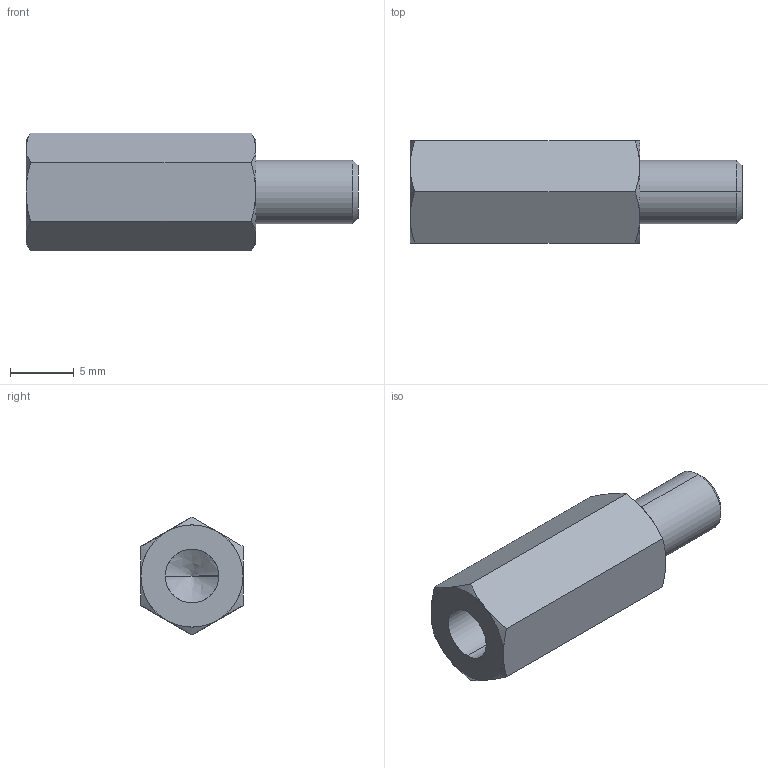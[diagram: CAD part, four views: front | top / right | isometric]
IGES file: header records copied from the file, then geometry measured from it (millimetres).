
Start section: SolidWorks IGES file using analytic representation for surfaces
Global section: file name: C:\Users\render1\Desktop\P0185_IGES\P0185.05-18.igs; native system: SolidWorks 2009; preprocessor: SolidWorks 2009; author: render1; date: 130627.112447; units: millimetre
Bounding box: 26 x 8 x 9.24 mm (x, y, z)
Surface area: 834 mm2 (no closed solid volume)
Topology: 0 solids, 0 shells, 29 faces, 324 edges, 322 vertices
Faces by surface type: revolution 20, bspline 9
